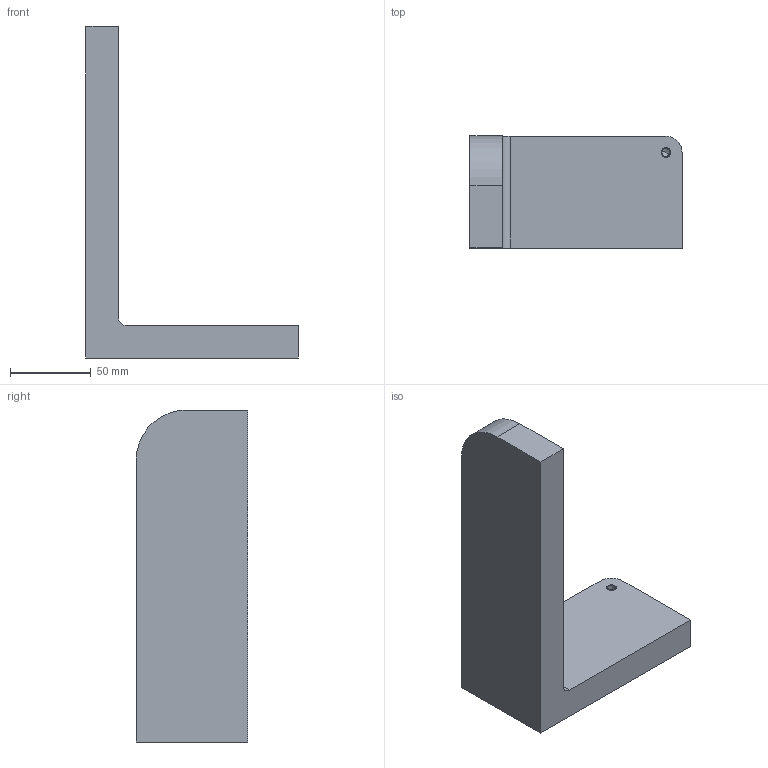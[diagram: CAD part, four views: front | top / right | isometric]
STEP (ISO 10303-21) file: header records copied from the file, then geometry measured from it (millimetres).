
FILE_DESCRIPTION(('CATIA V5 STEP Exchange'),'2;1');
FILE_NAME('C:\_Andres\UNIVERSIDAD\IQS\ASIGNATURAS\DAO\EXF\EXF-16172c\2inicio\Sanz_Alvarez_Ej01_v31.stp','2017-03-05T15:11:12+00:00',('none'),('none'),'CATIA Version 5-6 Release 2014 SP1 HF18','CATIA V5 STEP AP203','none');
FILE_SCHEMA(('CONFIG_CONTROL_DESIGN'));
Length unit declared in the file: millimetre
Products named in the file (1): Sanz_Alvarez_Ej01_v31
Bounding box: 131 x 69 x 205 mm (x, y, z)
Volume: 431583.5 mm3; surface area: 58539.6 mm2
Topology: 1 solids, 2 shells, 17 faces, 43 edges, 27 vertices
Faces by surface type: plane 8, cylinder 7, cone 2
Entity records: 513 total; most frequent: CARTESIAN_POINT 83, ORIENTED_EDGE 78, DIRECTION 69, EDGE_CURVE 41, AXIS2_PLACEMENT_3D 29, VECTOR 27, LINE 27, VERTEX_POINT 27
